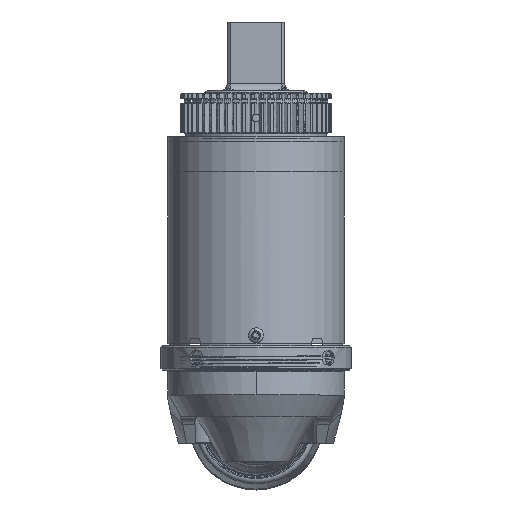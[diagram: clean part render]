
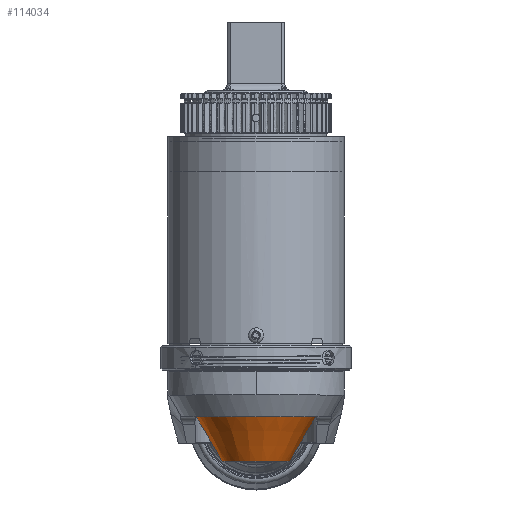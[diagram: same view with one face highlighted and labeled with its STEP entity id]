
A CAD part, top view. The second image highlights one B-rep face of the part: STEP entity #114034.
In plain terms, the highlighted conical face has half-angle 30 degrees and reference radius 26.67 mm.
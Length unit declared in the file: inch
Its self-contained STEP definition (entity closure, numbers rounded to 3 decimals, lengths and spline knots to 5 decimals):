
#3420 = EDGE_CURVE ( 'NONE', #114288, #45867, #5197, .T. ) ;
#4940 = DIRECTION ( 'NONE',  ( 0., 1., 0. ) ) ;
#5197 = CIRCLE ( 'NONE', #76509, 1.03392 ) ;
#6018 = ORIENTED_EDGE ( 'NONE', *, *, #111373, .T. ) ;
#8712 = CARTESIAN_POINT ( 'NONE',  ( 0., -0.69, 16.37872 ) ) ;
#9141 = CARTESIAN_POINT ( 'NONE',  ( -0.75916, -0.14384, 15.30057 ) ) ;
#9581 = CARTESIAN_POINT ( 'NONE',  ( -0.56958, -0.51263, 15.40008 ) ) ;
#15147 = EDGE_CURVE ( 'NONE', #90433, #114288, #31756, .T. ) ;
#19492 = CARTESIAN_POINT ( 'NONE',  ( -0.73109, -0.23088, 15.35076 ) ) ;
#19940 = CARTESIAN_POINT ( 'NONE',  ( -0.50091, -0.58856, 15.38062 ) ) ;
#21438 = CARTESIAN_POINT ( 'NONE',  ( 0.79028, 0.08215, 15.12393 ) ) ;
#29827 = CIRCLE ( 'NONE', #84574, 0.58812 ) ;
#29909 = CARTESIAN_POINT ( 'NONE',  ( -0.70942, -0.28458, 15.37499 ) ) ;
#30387 = CARTESIAN_POINT ( 'NONE',  ( -0.43991, -0.64214, 15.35947 ) ) ;
#31756 = B_SPLINE_CURVE_WITH_KNOTS ( 'NONE', 3,
 ( #92710, #96101, #92065, #91791, #91623, #91331, #91162, #91004, #90873, #90714, #90557, #90422, #90117, #89989, #89821, #89665, #89373, #89207, #88913, #88761, #88334, #88050, #87896, #87613 ),
 .UNSPECIFIED., .F., .F.,
 ( 4, 2, 2, 2, 2, 2, 2, 2, 2, 2, 2, 4 ),
 ( 0., 0.00315, 0.0063, 0.00787, 0.00945, 0.01102, 0.0126, 0.01417, 0.01574, 0.01889, 0.02204, 0.02519 ),
 .UNSPECIFIED. ) ;
#31880 = CONICAL_SURFACE ( 'NONE', #118511, 1.05, 0.524 ) ;
#35060 = FACE_OUTER_BOUND ( 'NONE', #81743, .T. ) ;
#40269 = CARTESIAN_POINT ( 'NONE',  ( -0.68364, -0.33882, 15.39294 ) ) ;
#40696 = CARTESIAN_POINT ( 'NONE',  ( -0.39156, -0.67876, 15.34281 ) ) ;
#45867 = VERTEX_POINT ( 'NONE', #56430 ) ;
#48048 = CARTESIAN_POINT ( 'NONE',  ( 0., -0.69, 15.7906 ) ) ;
#48610 = ORIENTED_EDGE ( 'NONE', *, *, #3420, .T. ) ;
#50036 = CARTESIAN_POINT ( 'NONE',  ( -0.78975, 0.05078, 15.15138 ) ) ;
#50470 = CARTESIAN_POINT ( 'NONE',  ( -0.65351, -0.39319, 15.40363 ) ) ;
#52247 = ORIENTED_EDGE ( 'NONE', *, *, #15147, .T. ) ;
#53402 = CARTESIAN_POINT ( 'NONE',  ( -0.3747, -0.69, 15.33729 ) ) ;
#54598 = AXIS2_PLACEMENT_3D ( 'NONE', #48048, #120120, #58336 ) ;
#56430 = CARTESIAN_POINT ( 'NONE',  ( -0.79028, 0.08215, 15.12393 ) ) ;
#58336 = DIRECTION ( 'NONE',  ( 0., 0., -1. ) ) ;
#60333 = CARTESIAN_POINT ( 'NONE',  ( -0.78761, 0.01917, 15.17812 ) ) ;
#60525 = B_SPLINE_CURVE_WITH_KNOTS ( 'NONE', 3,
 ( #132003, #50036, #60333, #132444, #70599, #9141, #80866, #19492, #91283, #29909, #101707, #40269, #112179, #50470, #122583, #60782, #132879, #71031, #9581, #81326, #19940, #91744, #30387, #102175, #40696, #112641 ),
 .UNSPECIFIED., .F., .F.,
 ( 4, 2, 2, 2, 2, 2, 2, 2, 2, 2, 2, 2, 4 ),
 ( 0., 0.00314, 0.00627, 0.00941, 0.01098, 0.01255, 0.01412, 0.01568, 0.01725, 0.01882, 0.02196, 0.02353, 0.02509 ),
 .UNSPECIFIED. ) ;
#60782 = CARTESIAN_POINT ( 'NONE',  ( -0.61987, -0.44574, 15.4066 ) ) ;
#66421 = CARTESIAN_POINT ( 'NONE',  ( 0., -0.69, 15.7906 ) ) ;
#67011 = VERTEX_POINT ( 'NONE', #53402 ) ;
#67971 = EDGE_CURVE ( 'NONE', #131182, #90433, #29827, .T. ) ;
#70599 = CARTESIAN_POINT ( 'NONE',  ( -0.77433, -0.07738, 15.25426 ) ) ;
#71031 = CARTESIAN_POINT ( 'NONE',  ( -0.58262, -0.49642, 15.40271 ) ) ;
#76509 = AXIS2_PLACEMENT_3D ( 'NONE', #125175, #125141, #125039 ) ;
#76665 = DIRECTION ( 'NONE',  ( 0., 0., -1. ) ) ;
#80866 = CARTESIAN_POINT ( 'NONE',  ( -0.74957, -0.17782, 15.3222 ) ) ;
#81326 = CARTESIAN_POINT ( 'NONE',  ( -0.52933, -0.55952, 15.39007 ) ) ;
#81521 = EDGE_CURVE ( 'NONE', #67011, #131182, #90877, .T. ) ;
#81743 = EDGE_LOOP ( 'NONE', ( #108978, #121618, #52247, #48610, #6018 ) ) ;
#83329 = CARTESIAN_POINT ( 'NONE',  ( 0., 0.11, 15.7906 ) ) ;
#84574 = AXIS2_PLACEMENT_3D ( 'NONE', #66421, #4940, #76665 ) ;
#87613 = CARTESIAN_POINT ( 'NONE',  ( 0.79028, 0.08215, 15.12393 ) ) ;
#87896 = CARTESIAN_POINT ( 'NONE',  ( 0.78974, 0.05067, 15.15148 ) ) ;
#88050 = CARTESIAN_POINT ( 'NONE',  ( 0.78759, 0.01883, 15.17841 ) ) ;
#88334 = CARTESIAN_POINT ( 'NONE',  ( 0.77974, -0.046, 15.2304 ) ) ;
#88761 = CARTESIAN_POINT ( 'NONE',  ( 0.77401, -0.07914, 15.25557 ) ) ;
#88913 = CARTESIAN_POINT ( 'NONE',  ( 0.75849, -0.14638, 15.30225 ) ) ;
#89207 = CARTESIAN_POINT ( 'NONE',  ( 0.74873, -0.18052, 15.32381 ) ) ;
#89373 = CARTESIAN_POINT ( 'NONE',  ( 0.73023, -0.23322, 15.35193 ) ) ;
#89665 = CARTESIAN_POINT ( 'NONE',  ( 0.72336, -0.25114, 15.36063 ) ) ;
#89821 = CARTESIAN_POINT ( 'NONE',  ( 0.70832, -0.28707, 15.37597 ) ) ;
#89989 = CARTESIAN_POINT ( 'NONE',  ( 0.70017, -0.30506, 15.3826 ) ) ;
#90117 = CARTESIAN_POINT ( 'NONE',  ( 0.68246, -0.34109, 15.39354 ) ) ;
#90422 = CARTESIAN_POINT ( 'NONE',  ( 0.67291, -0.35913, 15.39783 ) ) ;
#90433 = VERTEX_POINT ( 'NONE', #101398 ) ;
#90557 = CARTESIAN_POINT ( 'NONE',  ( 0.65226, -0.39528, 15.40389 ) ) ;
#90714 = CARTESIAN_POINT ( 'NONE',  ( 0.64133, -0.41308, 15.40559 ) ) ;
#90873 = CARTESIAN_POINT ( 'NONE',  ( 0.61842, -0.44784, 15.40657 ) ) ;
#90877 = CIRCLE ( 'NONE', #54598, 0.58812 ) ;
#91004 = CARTESIAN_POINT ( 'NONE',  ( 0.60641, -0.46485, 15.40587 ) ) ;
#91162 = CARTESIAN_POINT ( 'NONE',  ( 0.58129, -0.49811, 15.40247 ) ) ;
#91283 = CARTESIAN_POINT ( 'NONE',  ( -0.72429, -0.24876, 15.35951 ) ) ;
#91331 = CARTESIAN_POINT ( 'NONE',  ( 0.56814, -0.51439, 15.39976 ) ) ;
#91623 = CARTESIAN_POINT ( 'NONE',  ( 0.52786, -0.56107, 15.38961 ) ) ;
#91744 = CARTESIAN_POINT ( 'NONE',  ( -0.4555, -0.62913, 15.36495 ) ) ;
#91791 = CARTESIAN_POINT ( 'NONE',  ( 0.49961, -0.58979, 15.38018 ) ) ;
#92065 = CARTESIAN_POINT ( 'NONE',  ( 0.43983, -0.64306, 15.35954 ) ) ;
#92710 = CARTESIAN_POINT ( 'NONE',  ( 0.3747, -0.69, 15.33729 ) ) ;
#93334 = DIRECTION ( 'NONE',  ( 0., 0., -1. ) ) ;
#96101 = CARTESIAN_POINT ( 'NONE',  ( 0.4083, -0.66761, 15.34829 ) ) ;
#101398 = CARTESIAN_POINT ( 'NONE',  ( 0.3747, -0.69, 15.33729 ) ) ;
#101707 = CARTESIAN_POINT ( 'NONE',  ( -0.70132, -0.30258, 15.38174 ) ) ;
#102175 = CARTESIAN_POINT ( 'NONE',  ( -0.40796, -0.66694, 15.34841 ) ) ;
#108978 = ORIENTED_EDGE ( 'NONE', *, *, #81521, .T. ) ;
#111373 = EDGE_CURVE ( 'NONE', #45867, #67011, #60525, .T. ) ;
#112179 = CARTESIAN_POINT ( 'NONE',  ( -0.67397, -0.35718, 15.39741 ) ) ;
#112641 = CARTESIAN_POINT ( 'NONE',  ( -0.3747, -0.69, 15.33729 ) ) ;
#114034 = ADVANCED_FACE ( 'NONE', ( #35060 ), #31880, .T. ) ;
#114288 = VERTEX_POINT ( 'NONE', #21438 ) ;
#118511 = AXIS2_PLACEMENT_3D ( 'NONE', #83329, #124593, #93334 ) ;
#120120 = DIRECTION ( 'NONE',  ( 0., 1., 0. ) ) ;
#121618 = ORIENTED_EDGE ( 'NONE', *, *, #67971, .T. ) ;
#122583 = CARTESIAN_POINT ( 'NONE',  ( -0.64269, -0.41091, 15.40542 ) ) ;
#124593 = DIRECTION ( 'NONE',  ( 0., 1., 0. ) ) ;
#125039 = DIRECTION ( 'NONE',  ( 0., 0., 1. ) ) ;
#125141 = DIRECTION ( 'NONE',  ( 0., -1., 0. ) ) ;
#125175 = CARTESIAN_POINT ( 'NONE',  ( 0., 0.08215, 15.7906 ) ) ;
#131182 = VERTEX_POINT ( 'NONE', #8712 ) ;
#132003 = CARTESIAN_POINT ( 'NONE',  ( -0.79028, 0.08215, 15.12393 ) ) ;
#132444 = CARTESIAN_POINT ( 'NONE',  ( -0.77989, -0.04491, 15.22955 ) ) ;
#132879 = CARTESIAN_POINT ( 'NONE',  ( -0.60786, -0.46285, 15.40599 ) ) ;
